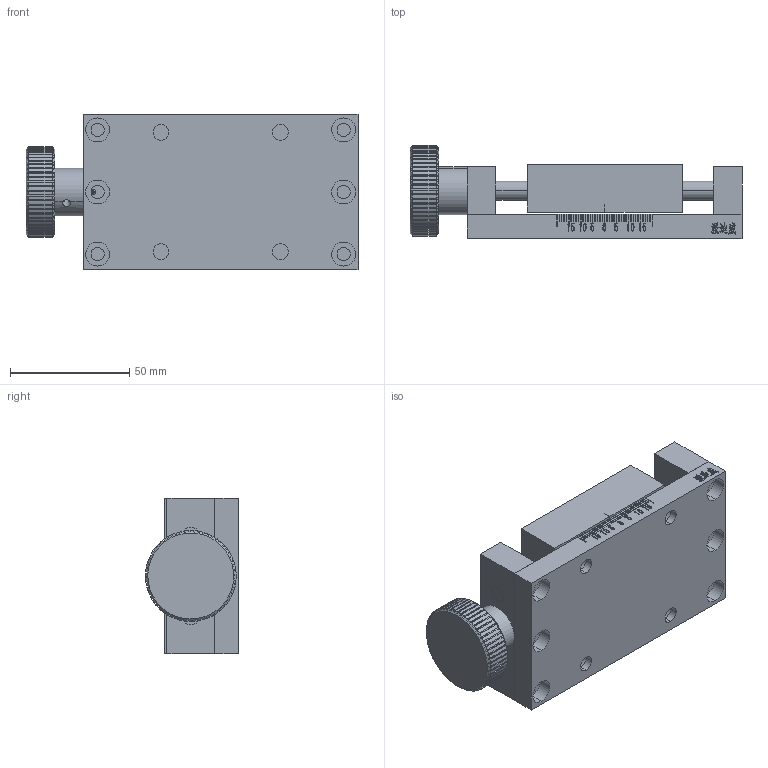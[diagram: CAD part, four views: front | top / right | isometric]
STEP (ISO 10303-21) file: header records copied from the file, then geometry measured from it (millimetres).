
FILE_DESCRIPTION (( 'STEP AP214' ), '1' );
FILE_NAME ('PT-ST25.STEP', '2022-08-21T02:29:44', ( '' ), ( '' ), 'SwSTEP 2.0', 'SolidWorks 2017', '' );
FILE_SCHEMA (( 'AUTOMOTIVE_DESIGN' ));
Length unit declared in the file: millimetre
Products named in the file (7): 菁釱; 賑輸; 菁釱4; 唅聽38; PT-ST25; 菁釱3; hex socket set screws with cone point gb_GB_FASTENER_SCREWS_HSCP M4X8-N
Assembly tree (10 placements, depth 2):
  PT-ST25
    菁釱
    菁釱3
    菁釱4
    賑輸
    hex socket set screws with cone point gb_GB_FASTENER_SCREWS_HSCP M4X8-N  x5
    唅聽38
Bounding box: 139 x 39 x 65 mm (x, y, z)
Volume: 202905.1 mm3; surface area: 53312.2 mm2
Topology: 10 solids, 10 shells, 1249 faces, 3450 edges, 2266 vertices
Faces by surface type: plane 837, bspline 190, cylinder 176, cone 46
Entity records: 46100 total; most frequent: CARTESIAN_POINT 17298, ORIENTED_EDGE 6492, DIRECTION 4816, EDGE_CURVE 3246, VERTEX_POINT 2158, VECTOR 2148, LINE 2148, AXIS2_PLACEMENT_3D 1334
